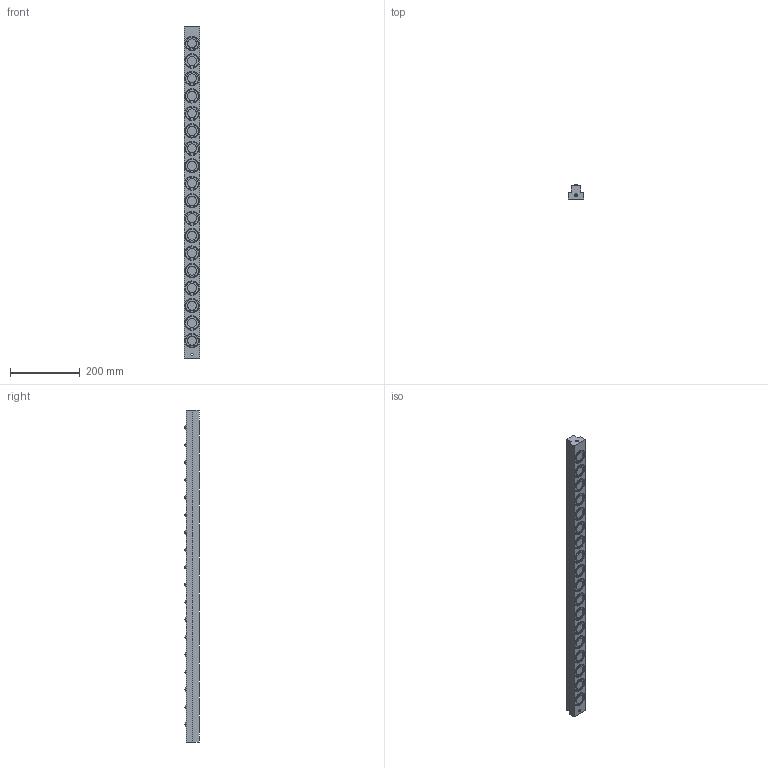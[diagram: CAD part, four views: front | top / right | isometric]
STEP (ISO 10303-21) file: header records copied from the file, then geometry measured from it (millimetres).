
FILE_DESCRIPTION (( 'STEP AP203' ), '1' );
FILE_NAME ('PVL50T-18.STEP', '2015-12-24T09:08:01', ( '' ), ( '' ), 'SwSTEP 2.0', 'SolidWorks 2013', '' );
FILE_SCHEMA (( 'CONFIG_CONTROL_DESIGN' ));
Length unit declared in the file: millimetre
Products named in the file (1): PVL50T-18
Bounding box: 45 x 42 x 950 mm (x, y, z)
Volume: 1283071.4 mm3; surface area: 189351.3 mm2
Topology: 1 solids, 1 shells, 580 faces, 1366 edges, 915 vertices
Faces by surface type: cylinder 366, plane 174, sphere 36, cone 4
Entity records: 17209 total; most frequent: DIRECTION 3370, CARTESIAN_POINT 2860, ORIENTED_EDGE 2728, AXIS2_PLACEMENT_3D 1425, EDGE_CURVE 1364, VERTEX_POINT 915, CIRCLE 844, EDGE_LOOP 711
